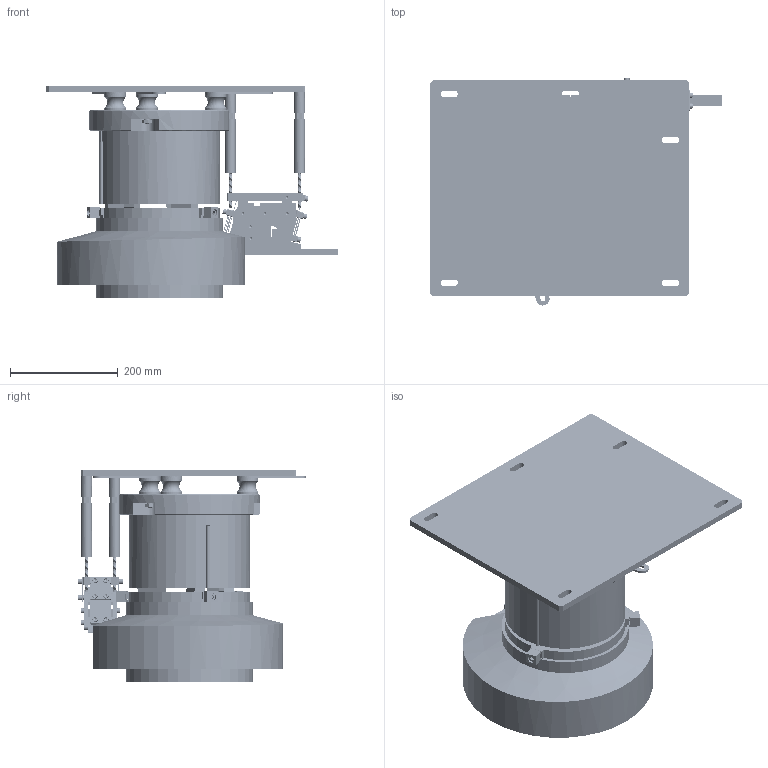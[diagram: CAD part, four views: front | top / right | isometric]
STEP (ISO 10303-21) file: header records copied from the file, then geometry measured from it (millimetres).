
FILE_DESCRIPTION((''),'2;1');
FILE_NAME('0-ZU-ZHUANG_ASM','2014-08-23T',('Administrator'),(''),'PRO/ENGINEER BY PARAMETRIC TECHNOLOGY CORPORATION, 2009280','PRO/ENGINEER BY PARAMETRIC TECHNOLOGY CORPORATION, 2009280','');
FILE_SCHEMA(('CONFIG_CONTROL_DESIGN'));
Length unit declared in the file: millimetre
Products named in the file (7): YUAN-PAN; BM23-R2S1; GUI-DAO; LM1-21; DI-BAN; ZHI-ZHU; 0-ZU-ZHUANG_ASM
Assembly tree (9 placements, depth 2):
  0-ZU-ZHUANG_ASM
    YUAN-PAN
    BM23-R2S1
    GUI-DAO
    LM1-21
    DI-BAN
    ZHI-ZHU  x4
Bounding box: 540 x 421.07 x 394.33 mm (x, y, z)
Volume: 11191217.3 mm3; surface area: 1753342.1 mm2
Topology: 9 solids, 180 shells, 4001 faces, 10779 edges, 7095 vertices
Faces by surface type: plane 1817, cylinder 1767, cone 249, bspline 156, torus 10, sphere 2
Entity records: 116959 total; most frequent: CARTESIAN_POINT 31546, DIRECTION 17705, ORIENTED_EDGE 17418, EDGE_CURVE 8908, AXIS2_PLACEMENT_3D 6228, VERTEX_POINT 5949, VECTOR 5249, LINE 5249
